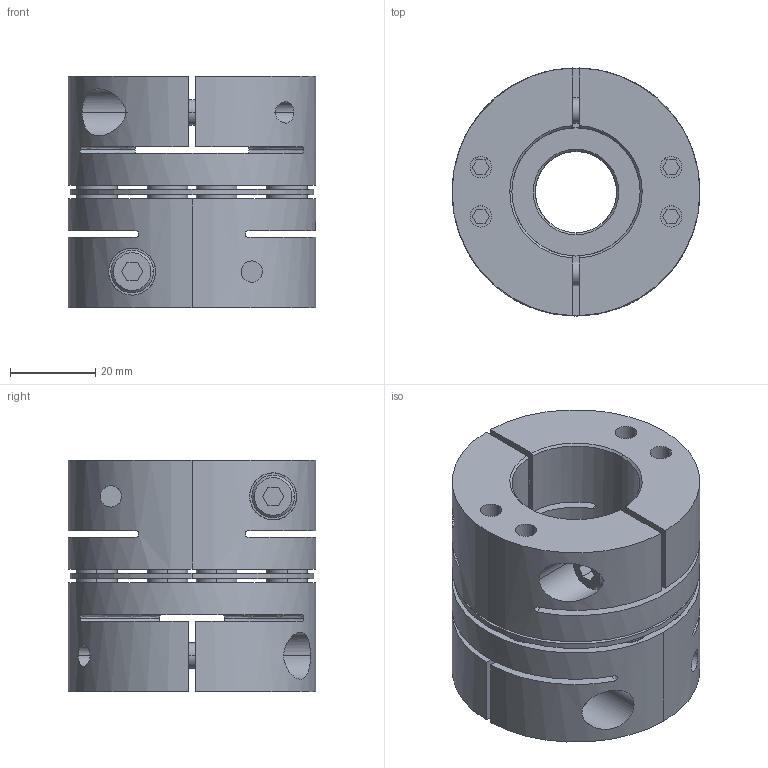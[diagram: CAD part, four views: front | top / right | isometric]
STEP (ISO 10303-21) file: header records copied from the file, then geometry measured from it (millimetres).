
FILE_DESCRIPTION((''),'2;1');
FILE_NAME('TAS-58C-19×30.stp','2022-11-14T22:20:51',(''),(''),'AutoCAD STEP 2000i','AutoCAD 2000i',', , ');
FILE_SCHEMA(('CONFIG_CONTROL_DESIGN'));
Length unit declared in the file: millimetre
Products named in the file (6): TAS-58C-12×22; 忣兜1; TA58C-22; CAP-M6×20; TA58C-12-2; TA58C-12
Assembly tree (7 placements, depth 3):
  TAS-58C-12×22
    忣兜1
    TA58C-22
      CAP-M6×20
    TA58C-12-2
      CAP-M6×20
    TA58C-12
      CAP-M6×20
Bounding box: 58 x 58 x 54.25 mm (x, y, z)
Volume: 97251.6 mm3; surface area: 40943.1 mm2
Topology: 1 solids, 1 shells, 360 faces, 894 edges, 628 vertices
Faces by surface type: plane 160, cylinder 148, cone 36, bspline 16
Entity records: 12805 total; most frequent: CARTESIAN_POINT 3832, DIRECTION 1922, ORIENTED_EDGE 1720, EDGE_CURVE 860, AXIS2_PLACEMENT_3D 732, VERTEX_POINT 564, EDGE_LOOP 464, VECTOR 458
